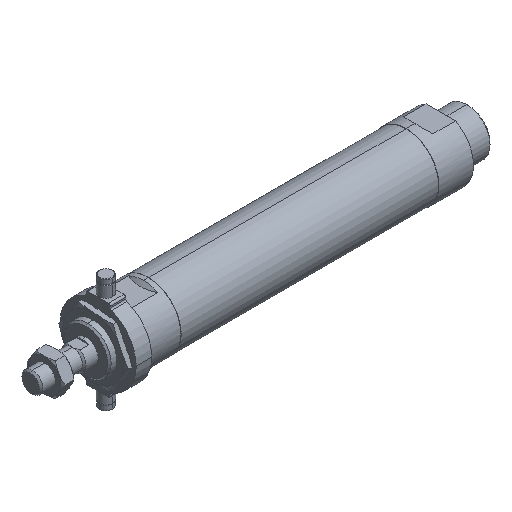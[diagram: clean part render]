
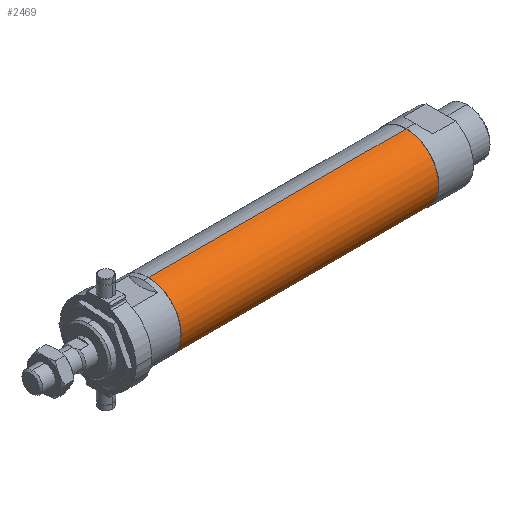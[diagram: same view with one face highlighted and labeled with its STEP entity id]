
A CAD part, isometric view. The second image highlights one B-rep face of the part: STEP entity #2469.
In plain terms, the highlighted cylindrical face has radius 18.8 mm (diameter 37.6 mm), a partial arc.
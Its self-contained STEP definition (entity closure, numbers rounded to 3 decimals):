
#146 = CARTESIAN_POINT ( 'NONE',  ( 217., 0., 18.8 ) ) ;
#297 = CARTESIAN_POINT ( 'NONE',  ( 68., 0., 0. ) ) ;
#404 = VERTEX_POINT ( 'NONE', #146 ) ;
#581 = CYLINDRICAL_SURFACE ( 'NONE', #3557, 18.8 ) ;
#593 = CARTESIAN_POINT ( 'NONE',  ( 217., 0., -18.8 ) ) ;
#880 = DIRECTION ( 'NONE',  ( 0., 0., 1. ) ) ;
#882 = DIRECTION ( 'NONE',  ( -1., 0., 0. ) ) ;
#1028 = EDGE_CURVE ( 'NONE', #2580, #404, #3063, .T. ) ;
#1064 = EDGE_CURVE ( 'NONE', #2580, #4206, #1651, .T. ) ;
#1221 = DIRECTION ( 'NONE',  ( -1., 0., 0. ) ) ;
#1274 = DIRECTION ( 'NONE',  ( 0., 0., 1. ) ) ;
#1471 = CARTESIAN_POINT ( 'NONE',  ( 68., 0., 18.8 ) ) ;
#1505 = AXIS2_PLACEMENT_3D ( 'NONE', #3335, #3409, #1274 ) ;
#1651 = LINE ( 'NONE', #3031, #4401 ) ;
#1886 = CARTESIAN_POINT ( 'NONE',  ( 68., 0., -18.8 ) ) ;
#1990 = VECTOR ( 'NONE', #882, 1000. ) ;
#2437 = LINE ( 'NONE', #3375, #1990 ) ;
#2469 = ADVANCED_FACE ( 'NONE', ( #3587 ), #581, .T. ) ;
#2580 = VERTEX_POINT ( 'NONE', #593 ) ;
#2734 = CIRCLE ( 'NONE', #2791, 18.8 ) ;
#2791 = AXIS2_PLACEMENT_3D ( 'NONE', #297, #4539, #880 ) ;
#2796 = DIRECTION ( 'NONE',  ( -1., 0., 0. ) ) ;
#3031 = CARTESIAN_POINT ( 'NONE',  ( -1.784, 0., -18.8 ) ) ;
#3063 = CIRCLE ( 'NONE', #1505, 18.8 ) ;
#3150 = ORIENTED_EDGE ( 'NONE', *, *, #3825, .T. ) ;
#3327 = EDGE_LOOP ( 'NONE', ( #3718, #3581, #3150, #3394 ) ) ;
#3335 = CARTESIAN_POINT ( 'NONE',  ( 217., 0., 0. ) ) ;
#3375 = CARTESIAN_POINT ( 'NONE',  ( -1.784, 0., 18.8 ) ) ;
#3394 = ORIENTED_EDGE ( 'NONE', *, *, #3554, .F. ) ;
#3409 = DIRECTION ( 'NONE',  ( -1., 0., 0. ) ) ;
#3554 = EDGE_CURVE ( 'NONE', #4206, #4570, #2734, .T. ) ;
#3557 = AXIS2_PLACEMENT_3D ( 'NONE', #4098, #2796, #4449 ) ;
#3581 = ORIENTED_EDGE ( 'NONE', *, *, #1028, .T. ) ;
#3587 = FACE_OUTER_BOUND ( 'NONE', #3327, .T. ) ;
#3718 = ORIENTED_EDGE ( 'NONE', *, *, #1064, .F. ) ;
#3825 = EDGE_CURVE ( 'NONE', #404, #4570, #2437, .T. ) ;
#4098 = CARTESIAN_POINT ( 'NONE',  ( -1.784, 0., 0. ) ) ;
#4206 = VERTEX_POINT ( 'NONE', #1886 ) ;
#4401 = VECTOR ( 'NONE', #1221, 1000. ) ;
#4449 = DIRECTION ( 'NONE',  ( 0., 0., 1. ) ) ;
#4539 = DIRECTION ( 'NONE',  ( -1., 0., 0. ) ) ;
#4570 = VERTEX_POINT ( 'NONE', #1471 ) ;
